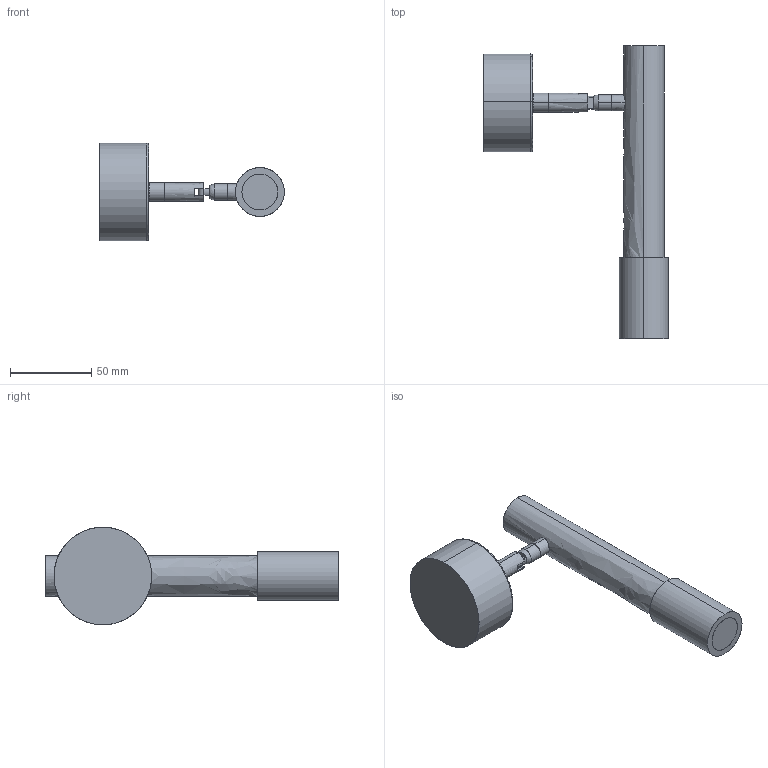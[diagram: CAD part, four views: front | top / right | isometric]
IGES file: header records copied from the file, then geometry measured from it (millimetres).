
Start section: SolidWorks IGES file using analytic representation for surfaces
Global section: file name: C:\Users\Agus\Desktop\Novedades Enero_2022 - 3D\A1297\A1297.IGS; native system: SolidWorks 2018; preprocessor: SolidWorks 2018; author: Agus; date: 220221.111051; units: millimetre
Bounding box: 113.38 x 180.5 x 59.96 mm (x, y, z)
Surface area: 33793.6 mm2 (no closed solid volume)
Topology: 0 solids, 0 shells, 72 faces, 1420 edges, 1417 vertices
Faces by surface type: revolution 39, bspline 33
